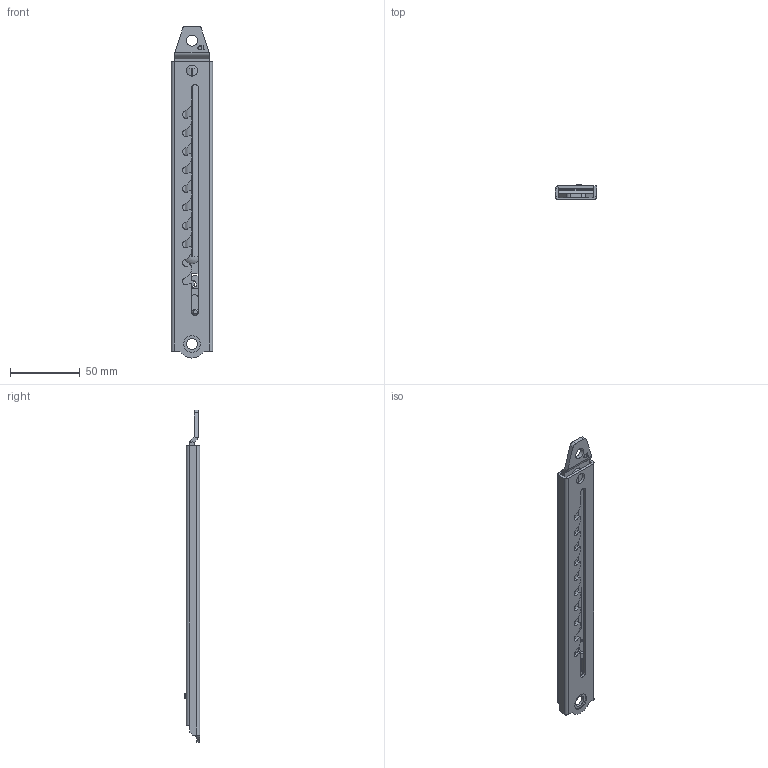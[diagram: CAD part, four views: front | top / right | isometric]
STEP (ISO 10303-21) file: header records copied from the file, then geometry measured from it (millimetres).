
FILE_DESCRIPTION (( 'STEP AP203' ), '1' );
FILE_NAME ('3SJ.TX101-2-1D.0001.STEP', '2017-12-29T07:50:49', ( 'Win7' ), ( 'Microsoft' ), 'SwSTEP 2.0', 'SolidWorks 2014', '' );
FILE_SCHEMA (( 'CONFIG_CONTROL_DESIGN' ));
Length unit declared in the file: millimetre
Products named in the file (7): 8SJ.TX101-2-1D.0370傅裝; TX101-1粟銅; TX101-1隅弇璃; TX101-1嘐隅え; TX101-1种赽; 3SJ.TX101-2-1D.0001; TX101-1傅褐
Assembly tree (6 placements, depth 2):
  3SJ.TX101-2-1D.0001
    TX101-1傅褐
    8SJ.TX101-2-1D.0370傅裝
    TX101-1粟銅
    TX101-1隅弇璃
    TX101-1嘐隅え
    TX101-1种赽
Bounding box: 29.5 x 11 x 237.47 mm (x, y, z)
Volume: 38970.4 mm3; surface area: 39973.1 mm2
Topology: 6 solids, 6 shells, 482 faces, 1311 edges, 860 vertices
Faces by surface type: plane 290, cylinder 167, bspline 17, torus 4, cone 4
Entity records: 21644 total; most frequent: CARTESIAN_POINT 8491, ORIENTED_EDGE 2622, DIRECTION 2595, EDGE_CURVE 1311, VECTOR 899, LINE 899, VERTEX_POINT 860, AXIS2_PLACEMENT_3D 848
